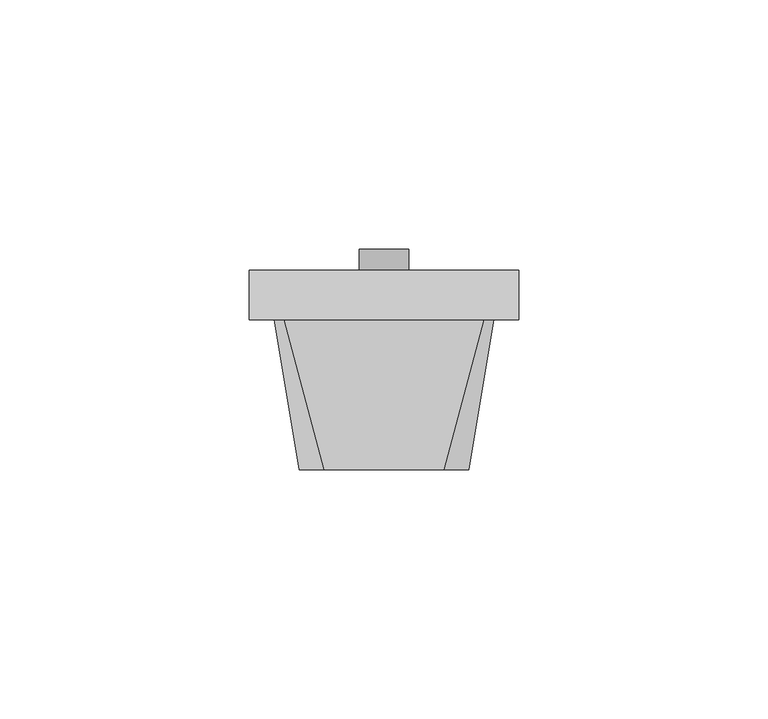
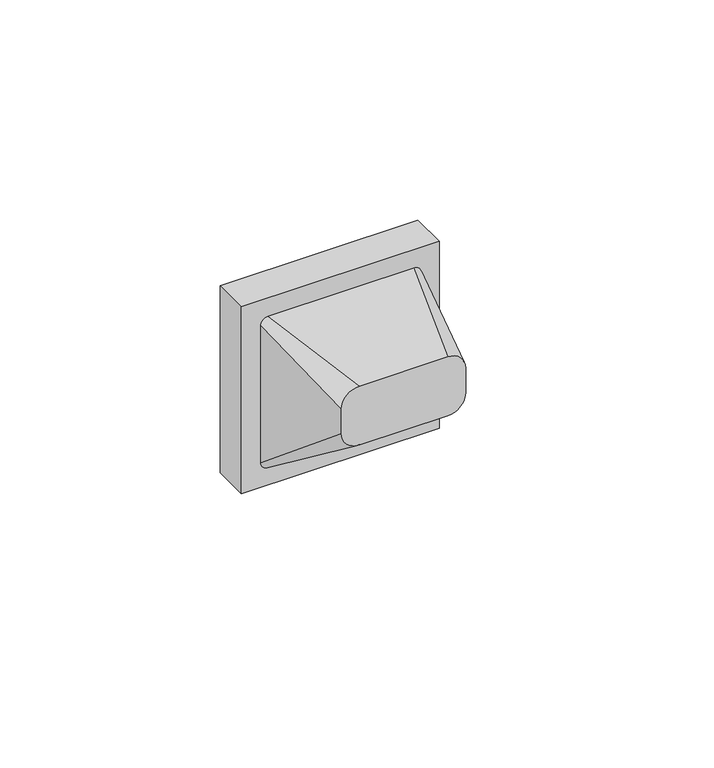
"""IFC4 building model written with IfcOpenShell, lengths in millimetres: proxy geometry, IEK_Brite_Механизм розетки мультимедийной : TV О_РТВ11-0-БрА."""

from ifc_helpers import new_model, si_unit, point, frame, origin, origin_2d, place, context, project, spatial, polyline, circle_curve, trimmed, segment, composite_curve, outline, extrude, source, transform, mapped, element, save
from ifc_brep_helpers import plane_surface, cylinder_surface, revolved_surface, spline_surface, advanced_brep


def electrical_fixtures_1f2eaab9(model_context):
    return source(origin(), model_context, "Body", "SolidModel", [
        extrude(outline(polyline([(27.0, -27.0), (-27.0, -27.0), (-27.0, 27.0), (27.0, 27.0), (27.0, -27.0)]), holes=[composite_curve([segment(trimmed(circle_curve(origin_2d(), 7.0), [point((0.0, 7.0))], [point((0.0, -7.0))], True, "CARTESIAN"), True, "CONTINUOUS"), segment(trimmed(circle_curve(origin_2d(), 7.0), [point((0.0, -7.0))], [point((0.0, 7.0))], True, "CARTESIAN"), True, "CONTINUOUS")], self_intersect=False)]), frame((0.0, 0.0, 0.0), z_axis=(0.0, 1.0, 0.0), x_axis=(0.0, 0.0, 1.0)), (0.0, 0.0, 1.0), 10.0),
        advanced_brep(
        [(-1.0543746, 8.9251664, 0.0), (1.0543746, 8.9251664, 0.0), (3.8412171, 8.9251664, 0.0), (-3.8412171, 8.9251664, 0.0), (3.8412171, 0.0, 0.0), (-3.8412171, 0.0, 0.0), (1.0543746, 0.0, 0.0), (-1.0543746, 0.0, 0.0)],
        [
            (0, 1, circle_curve(frame((0.0, 8.9251664, 0.0), z_axis=(0.0, -1.0, 0.0), x_axis=(1.0, 0.0, 0.0)), 1.0543746)),
            (1, 2),
            (2, 3, circle_curve(frame((0.0, 8.9251664, 0.0), z_axis=(0.0, 1.0, 0.0), x_axis=(1.0, 0.0, 0.0)), 3.8412171)),
            (3, 0),
            (1, 0, circle_curve(frame((0.0, 8.9251664, 0.0), z_axis=(0.0, -1.0, 0.0), x_axis=(1.0, 0.0, 0.0)), 1.0543746)),
            (3, 2, circle_curve(frame((0.0, 8.9251664, 0.0), z_axis=(0.0, 1.0, 0.0), x_axis=(1.0, 0.0, 0.0)), 3.8412171)),
            (2, 4),
            (4, 5, circle_curve(frame((0.0, 0.0, 0.0), z_axis=(0.0, 1.0, 0.0), x_axis=(1.0, 0.0, 0.0)), 3.8412171)),
            (5, 3),
            (5, 4, circle_curve(frame((0.0, 0.0, 0.0), z_axis=(0.0, 1.0, 0.0), x_axis=(1.0, 0.0, 0.0)), 3.8412171)),
            (4, 6),
            (6, 7, circle_curve(frame((0.0, 0.0, 0.0), z_axis=(0.0, 1.0, 0.0), x_axis=(1.0, 0.0, 0.0)), 1.0543746)),
            (7, 5),
            (7, 6, circle_curve(frame((0.0, 0.0, 0.0), z_axis=(0.0, 1.0, 0.0), x_axis=(1.0, 0.0, 0.0)), 1.0543746)),
            (6, 1),
            (0, 7),
        ],
        [
            plane_surface(frame((0.0, 8.9251664, 0.0), z_axis=(0.0, 1.0, 0.0), x_axis=(1.0, 0.0, 0.0))),
            cylinder_surface(frame((0.0, 0.0, 0.0), z_axis=(0.0, 1.0, 0.0), x_axis=(1.0, 0.0, 0.0)), 3.8412171),
            plane_surface(frame((0.0, 0.0, 0.0), z_axis=(0.0, -1.0, 0.0), x_axis=(1.0, 0.0, 0.0))),
            revolved_surface(polyline([(1.0543746, 8.9251664, 0.0), (1.0543746, 0.0, 0.0)]), (0.0, 0.0, 0.0), (0.0, 1.0, 0.0)),
        ],
        [
            (0, [[1, 2, 3, 4]]),
            (0, [[5, -4, 6, -2]]),
            (1, [[-3, 7, 8, 9]]),
            (1, [[-6, -9, 10, -7]]),
            (2, [[-8, 11, 12, 13]]),
            (2, [[-10, -13, 14, -11]]),
            (3, [[-12, 15, -1, 16]]),
            (3, [[-14, -16, -5, -15]]),
        ],
    ),
        advanced_brep(
        [(0.0, 13.2712404, 0.0), (0.9026489, 13.2712404, 0.0), (-0.9026489, 13.2712404, 0.0), (-0.9026489, 0.0, 0.0), (0.9026489, 0.0, 0.0), (0.0, 0.0, 0.0)],
        [
            (0, 1),
            (1, 2, circle_curve(frame((0.0, 13.2712404, 0.0), z_axis=(0.0, 1.0, 0.0), x_axis=(1.0, 0.0, 0.0)), 0.9026489)),
            (2, 0),
            (2, 1, circle_curve(frame((0.0, 13.2712404, 0.0), z_axis=(0.0, 1.0, 0.0), x_axis=(1.0, 0.0, 0.0)), 0.9026489)),
            (3, 4, circle_curve(frame((0.0, 0.0, 0.0), z_axis=(0.0, -1.0, 0.0), x_axis=(1.0, 0.0, 0.0)), 0.9026489)),
            (4, 5),
            (5, 3),
            (4, 3, circle_curve(frame((0.0, 0.0, 0.0), z_axis=(0.0, -1.0, 0.0), x_axis=(1.0, 0.0, 0.0)), 0.9026489)),
            (1, 4),
            (3, 2),
        ],
        [
            plane_surface(frame((0.0, 13.2712404, 0.0), z_axis=(0.0, 1.0, 0.0), x_axis=(1.0, 0.0, 0.0))),
            plane_surface(frame((0.0, 0.0, 0.0), z_axis=(0.0, -1.0, 0.0), x_axis=(1.0, 0.0, 0.0))),
            cylinder_surface(frame((0.0, 0.0, 0.0), z_axis=(0.0, 1.0, 0.0), x_axis=(1.0, 0.0, 0.0)), 0.9026489),
        ],
        [
            (0, [[1, 2, 3]]),
            (0, [[-3, 4, -1]]),
            (1, [[5, 6, 7]]),
            (1, [[8, -7, -6]]),
            (2, [[-2, 9, -5, 10]]),
            (2, [[-4, -10, -8, -9]]),
        ],
    ),
        advanced_brep(
        [(-5.0, 0.0, 0.0), (5.0, 0.0, 0.0), (4.0205306, 0.0, 0.0), (-4.0205306, 0.0, 0.0), (4.0205306, 11.0, 0.0), (-4.0205306, 11.0, 0.0), (4.0205306, 14.1430385, 0.0), (-4.0205306, 14.1430385, 0.0), (5.0, 14.1430385, 0.0), (-5.0, 14.1430385, 0.0)],
        [
            (0, 1, circle_curve(frame((0.0, 0.0, 0.0), z_axis=(0.0, -1.0, 0.0), x_axis=(1.0, 0.0, 0.0)), 5.0)),
            (1, 2),
            (2, 3, circle_curve(frame((0.0, 0.0, 0.0), z_axis=(0.0, 1.0, 0.0), x_axis=(1.0, 0.0, 0.0)), 4.0205306)),
            (3, 0),
            (1, 0, circle_curve(frame((0.0, 0.0, 0.0), z_axis=(0.0, -1.0, 0.0), x_axis=(1.0, 0.0, 0.0)), 5.0)),
            (3, 2, circle_curve(frame((0.0, 0.0, 0.0), z_axis=(0.0, 1.0, 0.0), x_axis=(1.0, 0.0, 0.0)), 4.0205306)),
            (2, 4),
            (4, 5, circle_curve(frame((0.0, 11.0, 0.0), z_axis=(0.0, 1.0, 0.0), x_axis=(1.0, 0.0, 0.0)), 4.0205306)),
            (5, 3),
            (5, 4, circle_curve(frame((0.0, 11.0, 0.0), z_axis=(0.0, 1.0, 0.0), x_axis=(1.0, 0.0, 0.0)), 4.0205306)),
            (4, 6),
            (6, 7, circle_curve(frame((0.0, 14.1430385, 0.0), z_axis=(0.0, 1.0, 0.0), x_axis=(1.0, 0.0, 0.0)), 4.0205306)),
            (7, 5),
            (7, 6, circle_curve(frame((0.0, 14.1430385, 0.0), z_axis=(0.0, 1.0, 0.0), x_axis=(1.0, 0.0, 0.0)), 4.0205306)),
            (6, 8),
            (8, 9, circle_curve(frame((0.0, 14.1430385, 0.0), z_axis=(0.0, 1.0, 0.0), x_axis=(1.0, 0.0, 0.0)), 5.0)),
            (9, 7),
            (9, 8, circle_curve(frame((0.0, 14.1430385, 0.0), z_axis=(0.0, 1.0, 0.0), x_axis=(1.0, 0.0, 0.0)), 5.0)),
            (8, 1),
            (0, 9),
        ],
        [
            plane_surface(frame((0.0, 0.0, 0.0), z_axis=(0.0, -1.0, 0.0), x_axis=(1.0, 0.0, 0.0))),
            revolved_surface(polyline([(4.0205306, 11.0, 0.0), (4.0205306, 0.0, 0.0)]), (0.0, 10.0, 0.0), (0.0, 1.0, 0.0)),
            revolved_surface(polyline([(4.0205306, 14.1430385, 0.0), (4.0205306, 11.0, 0.0)]), (0.0, 10.0, 0.0), (0.0, 1.0, 0.0)),
            plane_surface(frame((0.0, 14.1430385, 0.0), z_axis=(0.0, 1.0, 0.0), x_axis=(1.0, 0.0, 0.0))),
            cylinder_surface(frame((0.0, 10.0, 0.0), z_axis=(0.0, 1.0, 0.0), x_axis=(1.0, 0.0, 0.0)), 5.0),
        ],
        [
            (0, [[1, 2, 3, 4]]),
            (0, [[5, -4, 6, -2]]),
            (1, [[-3, 7, 8, 9]]),
            (1, [[-6, -9, 10, -7]]),
            (2, [[-8, 11, 12, 13]]),
            (2, [[-10, -13, 14, -11]]),
            (3, [[-12, 15, 16, 17]]),
            (3, [[-14, -17, 18, -15]]),
            (4, [[-16, 19, -1, 20]]),
            (4, [[-18, -20, -5, -19]]),
        ],
    ),
        advanced_brep(
        [(-12.0, -30.0, 17.0), (-17.0, -30.0, 12.0), (-17.0, -30.0, 5.0), (-12.0, -30.0, 0.0), (12.0, -30.0, 0.0), (17.0, -30.0, 5.0), (17.0, -30.0, 12.0), (12.0, -30.0, 17.0), (-20.0, 0.0, 22.0), (20.0, 0.0, 22.0), (22.0, 0.0, 20.0), (22.0, 0.0, -20.0), (20.0, 0.0, -22.0), (-20.0, 0.0, -22.0), (-22.0, 0.0, -20.0), (-22.0, 0.0, 20.0)],
        [
            (0, 1, circle_curve(frame((-12.0, -30.0, 12.0), z_axis=(0.0, -1.0, 0.0), x_axis=(1.0, 0.0, 0.0)), 5.0)),
            (1, 2),
            (2, 3, circle_curve(frame((-12.0, -30.0, 5.0), z_axis=(0.0, -1.0, 0.0), x_axis=(1.0, 0.0, 0.0)), 5.0)),
            (3, 4),
            (4, 5, circle_curve(frame((12.0, -30.0, 5.0), z_axis=(0.0, -1.0, 0.0), x_axis=(1.0, 0.0, 0.0)), 5.0)),
            (5, 6),
            (6, 7, circle_curve(frame((12.0, -30.0, 12.0), z_axis=(0.0, -1.0, 0.0), x_axis=(1.0, 0.0, 0.0)), 5.0)),
            (7, 0),
            (8, 9),
            (9, 10, circle_curve(frame((20.0, 0.0, 20.0), z_axis=(0.0, 1.0, 0.0), x_axis=(1.0, 0.0, 0.0)), 2.0)),
            (10, 11),
            (11, 12, circle_curve(frame((20.0, 0.0, -20.0), z_axis=(0.0, 1.0, 0.0), x_axis=(1.0, 0.0, 0.0)), 2.0)),
            (12, 13),
            (13, 14, circle_curve(frame((-20.0, 0.0, -20.0), z_axis=(0.0, 1.0, 0.0), x_axis=(1.0, 0.0, 0.0)), 2.0)),
            (14, 15),
            (15, 8, circle_curve(frame((-20.0, 0.0, 20.0), z_axis=(0.0, 1.0, 0.0), x_axis=(1.0, 0.0, 0.0)), 2.0)),
            (8, 0),
            (7, 9),
            (6, 10),
            (5, 11),
            (4, 12),
            (3, 13),
            (2, 14),
            (1, 15),
        ],
        [
            plane_surface(frame((0.0, -30.0, 8.5), z_axis=(0.0, -1.0, 0.0), x_axis=(-1.0, 0.0, 0.0))),
            plane_surface(frame((0.0, 0.0, 0.0), z_axis=(0.0, 1.0, 0.0), x_axis=(-1.0, 0.0, 0.0))),
            plane_surface(frame((0.0, 0.0, 22.0), z_axis=(0.0, -0.16439898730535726, 0.9863939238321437), x_axis=(-1.0, 0.0, 0.0))),
            spline_surface(2, 1, [[(22.0, 0.0, 20.0), (17.0, -30.0, 12.0)], [(22.0, 0.0, 22.0), (17.0, -30.0, 17.0)], [(20.0, 0.0, 22.0), (12.0, -30.0, 17.0)]], [3, 3], [2, 2], [0.0, 1.0], [0.0, 1.0], weights=[[1.0, 1.0], [0.7071067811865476, 0.7071067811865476], [1.0, 1.0]]),
            plane_surface(frame((22.0, 0.0, 0.0), z_axis=(0.9863939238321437, -0.1643989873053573, 0.0), x_axis=(0.0, 0.0, 1.0))),
            spline_surface(2, 1, [[(20.0, 0.0, -22.0), (12.0, -30.0, 0.0)], [(22.0, 0.0, -22.0), (17.0, -30.0, 0.0)], [(22.0, 0.0, -20.0), (17.0, -30.0, 5.0)]], [3, 3], [2, 2], [0.0, 1.0], [0.0, 1.0], weights=[[1.0, 1.0], [0.7071067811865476, 0.7071067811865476], [1.0, 1.0]]),
            plane_surface(frame((0.0, 0.0, -22.0), z_axis=(0.0, -0.591363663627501, -0.8064049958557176), x_axis=(1.0, 0.0, 0.0))),
            spline_surface(2, 1, [[(-22.0, 0.0, -20.0), (-17.0, -30.0, 5.0)], [(-22.0, 0.0, -22.0), (-17.0, -30.0, 0.0)], [(-20.0, 0.0, -22.0), (-12.0, -30.0, 0.0)]], [3, 3], [2, 2], [0.0, 1.0], [0.0, 1.0], weights=[[1.0, 1.0], [0.7071067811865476, 0.7071067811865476], [1.0, 1.0]]),
            plane_surface(frame((-22.0, 0.0, 0.0), z_axis=(-0.9863939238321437, -0.1643989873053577, 0.0), x_axis=(0.0, 0.0, -1.0))),
            spline_surface(2, 1, [[(-20.0, 0.0, 22.0), (-12.0, -30.0, 17.0)], [(-22.0, 0.0, 22.0), (-17.0, -30.0, 17.0)], [(-22.0, 0.0, 20.0), (-17.0, -30.0, 12.0)]], [3, 3], [2, 2], [0.0, 1.0], [0.0, 1.0], weights=[[1.0, 1.0], [0.7071067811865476, 0.7071067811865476], [1.0, 1.0]]),
        ],
        [
            (0, [[1, 2, 3, 4, 5, 6, 7, 8]]),
            (1, [[9, 10, 11, 12, 13, 14, 15, 16]]),
            (2, [[-9, 17, -8, 18]]),
            (3, [[-10, -18, -7, 19]]),
            (4, [[-11, -19, -6, 20]]),
            (5, [[-12, -20, -5, 21]]),
            (6, [[-13, -21, -4, 22]]),
            (7, [[-14, -22, -3, 23]]),
            (8, [[-15, -23, -2, 24]]),
            (9, [[-16, -24, -1, -17]]),
        ],
    ),
    ])


if __name__ == "__main__":
    model = new_model("IFC4")
    model_context = context("Model", 3, world=origin())
    ifc_project = project(units=[si_unit("LENGTHUNIT", "METRE", prefix="MILLI")], contexts=[model_context])
    site = spatial("IfcSite", under=ifc_project)
    building = spatial("IfcBuilding", under=site)
    placement = place(None, origin())
    electrical_fixtures_shape = electrical_fixtures_1f2eaab9(model_context)
    element("IfcBuildingElementProxy", 1, Name="IEK_Brite_Механизм розетки мультимедийной : TV О_РТВ11-0-БрА", ObjectType="IEK_Brite_Механизм розетки мультимедийной : TV О_РТВ11-0-БрА", at=placement, inside=building, context=model_context, shape_type="MappedRepresentation", body=[
        mapped(electrical_fixtures_shape, transform((0.0, 0.0, 0.0), x_axis=(1.0, 0.0, 0.0), y_axis=(0.0, 1.0, 0.0), z_axis=(0.0, 0.0, 1.0))),
    ])
    save(model, "model.ifc")
